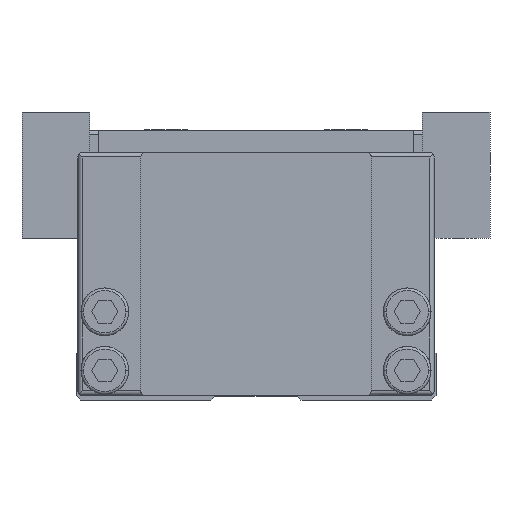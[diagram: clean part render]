
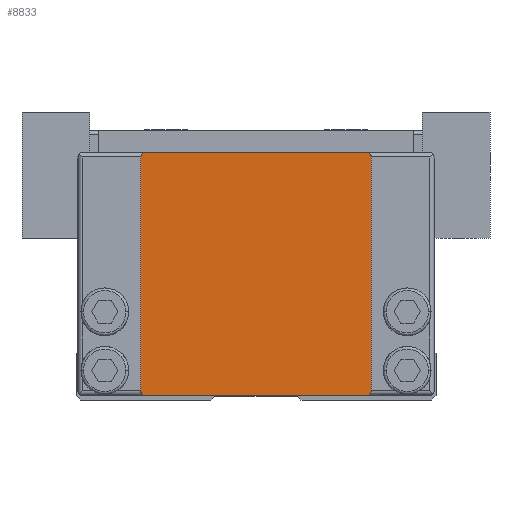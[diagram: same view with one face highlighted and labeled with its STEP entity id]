
A CAD part, front view. The second image highlights one B-rep face of the part: STEP entity #8833.
In plain terms, the highlighted planar face has unit normal (0, -1, 0).
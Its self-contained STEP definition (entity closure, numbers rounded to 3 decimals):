
#5425=VERTEX_POINT('',#15821);
#6469=VERTEX_POINT('',#16998);
#6549=VERTEX_POINT('',#17086);
#7483=EDGE_CURVE('',#6549,#6469,#18113,.T.);
#7775=EDGE_CURVE('',#9397,#15157,#18444,.T.);
#7813=VERTEX_POINT('',#18483);
#8147=VERTEX_POINT('',#18845);
#8755=EDGE_CURVE('',#7813,#9397,#19518,.T.);
#8833=ADVANCED_FACE('',(#19604),#19605,.T.);
#9397=VERTEX_POINT('',#20222);
#10581=EDGE_CURVE('',#5425,#6549,#21526,.T.);
#11025=VERTEX_POINT('',#22015);
#12773=EDGE_CURVE('',#6469,#8147,#23946,.T.);
#14013=EDGE_CURVE('',#8147,#11025,#25315,.T.);
#14331=EDGE_CURVE('',#11025,#7813,#25677,.T.);
#14705=EDGE_CURVE('',#15157,#5425,#26093,.T.);
#15157=VERTEX_POINT('',#26593);
#15821=CARTESIAN_POINT('',(-12.8,0.0,1.0));
#16998=CARTESIAN_POINT('',(-12.3,0.0,27.5));
#17086=CARTESIAN_POINT('',(-12.8,0.0,27.0));
#18113=CIRCLE('',#30772,0.5);
#18444=LINE('',#31219,#31220);
#18483=CARTESIAN_POINT('',(12.8,0.0,1.0));
#18845=CARTESIAN_POINT('',(12.3,0.0,27.5));
#19518=CIRCLE('',#32919,0.5);
#19604=FACE_OUTER_BOUND('',#33033,.T.);
#19605=PLANE('',#33034);
#20222=CARTESIAN_POINT('',(12.3,0.0,0.5));
#21526=LINE('',#35981,#35982);
#22015=CARTESIAN_POINT('',(12.8,0.0,27.0));
#23946=LINE('',#39560,#39561);
#25315=CIRCLE('',#41599,0.5);
#25677=LINE('',#42106,#42107);
#26093=CIRCLE('',#42770,0.5);
#26593=CARTESIAN_POINT('',(-12.3,0.0,0.5));
#30772=AXIS2_PLACEMENT_3D('',#47244,#47245,#47246);
#31219=CARTESIAN_POINT('',(-12.3,0.0,0.5));
#31220=VECTOR('',#47665,1.0);
#32919=AXIS2_PLACEMENT_3D('',#48813,#48814,#48815);
#33033=EDGE_LOOP('',(#48920,#48921,#48922,#48923,#48924,#48925,#48926,#48927));
#33034=AXIS2_PLACEMENT_3D('',#48928,#48929,#48930);
#35981=CARTESIAN_POINT('',(-12.8,0.0,27.0));
#35982=VECTOR('',#50996,1.0);
#39560=CARTESIAN_POINT('',(12.3,0.0,27.5));
#39561=VECTOR('',#53640,1.0);
#41599=AXIS2_PLACEMENT_3D('',#55203,#55204,#55205);
#42106=CARTESIAN_POINT('',(12.8,0.0,1.0));
#42107=VECTOR('',#55718,1.0);
#42770=AXIS2_PLACEMENT_3D('',#56244,#56245,#56246);
#47244=CARTESIAN_POINT('',(-12.3,0.0,27.0));
#47245=DIRECTION('',(0.0,1.0,-0.0));
#47246=DIRECTION('',(0.,0.0,1.0));
#47665=DIRECTION('',(-1.0,0.0,-0.0));
#48813=CARTESIAN_POINT('',(12.3,0.0,1.));
#48814=DIRECTION('',(-0.0,1.0,0.0));
#48815=DIRECTION('',(0.0,0.0,-1.0));
#48920=ORIENTED_EDGE('',*,*,#10581,.F.);
#48921=ORIENTED_EDGE('',*,*,#14705,.F.);
#48922=ORIENTED_EDGE('',*,*,#7775,.F.);
#48923=ORIENTED_EDGE('',*,*,#8755,.F.);
#48924=ORIENTED_EDGE('',*,*,#14331,.F.);
#48925=ORIENTED_EDGE('',*,*,#14013,.F.);
#48926=ORIENTED_EDGE('',*,*,#12773,.F.);
#48927=ORIENTED_EDGE('',*,*,#7483,.F.);
#48928=CARTESIAN_POINT('',(0.,0.0,14.0));
#48929=DIRECTION('',(0.0,-1.0,0.0));
#48930=DIRECTION('',(1.0,0.0,0.0));
#50996=DIRECTION('',(0.0,0.0,1.0));
#53640=DIRECTION('',(1.0,0.0,0.0));
#55203=CARTESIAN_POINT('',(12.3,0.0,27.0));
#55204=DIRECTION('',(-0.0,1.0,0.0));
#55205=DIRECTION('',(1.0,0.0,0.));
#55718=DIRECTION('',(-0.0,0.0,-1.0));
#56244=CARTESIAN_POINT('',(-12.3,0.0,1.));
#56245=DIRECTION('',(0.0,1.0,-0.0));
#56246=DIRECTION('',(-1.0,0.0,0.));
